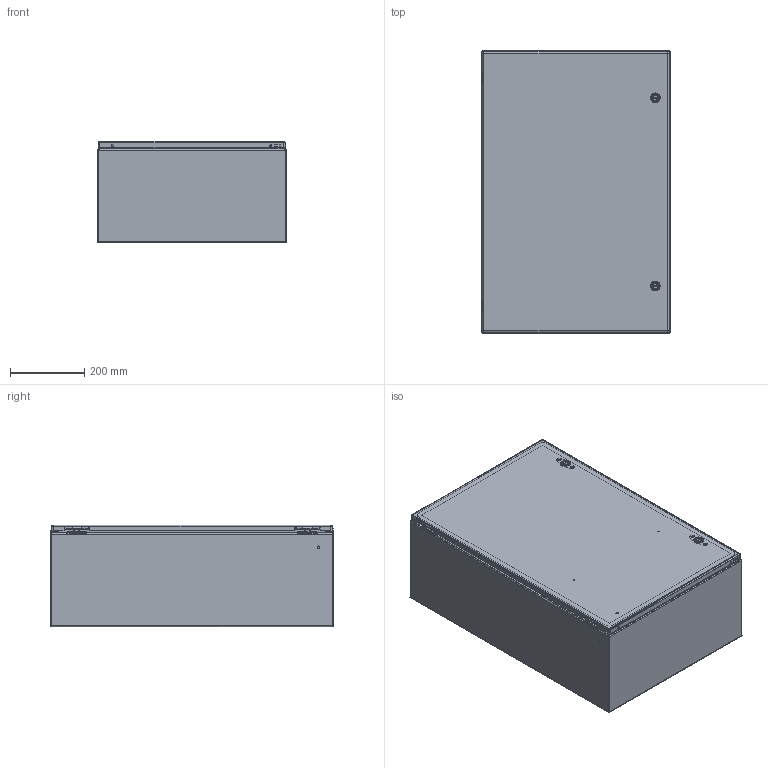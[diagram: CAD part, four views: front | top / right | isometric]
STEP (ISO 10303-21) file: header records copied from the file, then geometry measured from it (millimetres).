
FILE_DESCRIPTION (( 'STEP AP203' ), '1' );
FILE_NAME ('csd302010.STEP', '2012-04-18T20:48:32', ( 'Hoffman User' ), ( 'Hoffman Enclosures' ), 'SwSTEP 2.0', 'SolidWorks 2010', '' );
FILE_SCHEMA (( 'CONFIG_CONTROL_DESIGN' ));
Length unit declared in the file: inch
Products named in the file (27): csd302010; 87951444; 87755916_default; 23271001_After Weld; 87937937_assy; 87937977_weldment; 87936136; 99401225; 87931362_87931362; 64101001; 64201001; 87541994_Installed Height; 87541995; 64202001; 64210001; 64203001; 87927840_87927840; 87932903; 64138001; 87938006; 87543027; 89076399; 89076193; 89056623; 87929507; 87929767; 87929769_Installed on Pin
Assembly tree (43 placements, depth 4):
  csd302010
    87543027  x2
    87929507  x2
      87929767
      87929769_Installed on Pin
    89076399  x2
      89056623
      89076193
    87937937_assy
      64138001  x2
      87932903  x4
      64101001  x2
        87927840_87927840
        87541995
        64203001
        87541994_Installed Height
        64201001
        64202001
        64210001
      87938006
      87937977_weldment
        87931362_87931362  x6
        87936136
        99401225
    87951444
      87755916_default
      99401225
      23271001_After Weld  x4
Bounding box: 508 x 762.3 x 274.7 mm (x, y, z)
Volume: 2514531.5 mm3; surface area: 3190986 mm2
Topology: 47 solids, 47 shells, 2331 faces, 5754 edges, 3472 vertices
Faces by surface type: plane 851, cylinder 704, bspline 512, cone 132, torus 124, sphere 8
Entity records: 46673 total; most frequent: CARTESIAN_POINT 16355, ORIENTED_EDGE 5918, DIRECTION 5185, EDGE_CURVE 2959, AXIS2_PLACEMENT_3D 1860, VERTEX_POINT 1814, VECTOR 1465, LINE 1465
